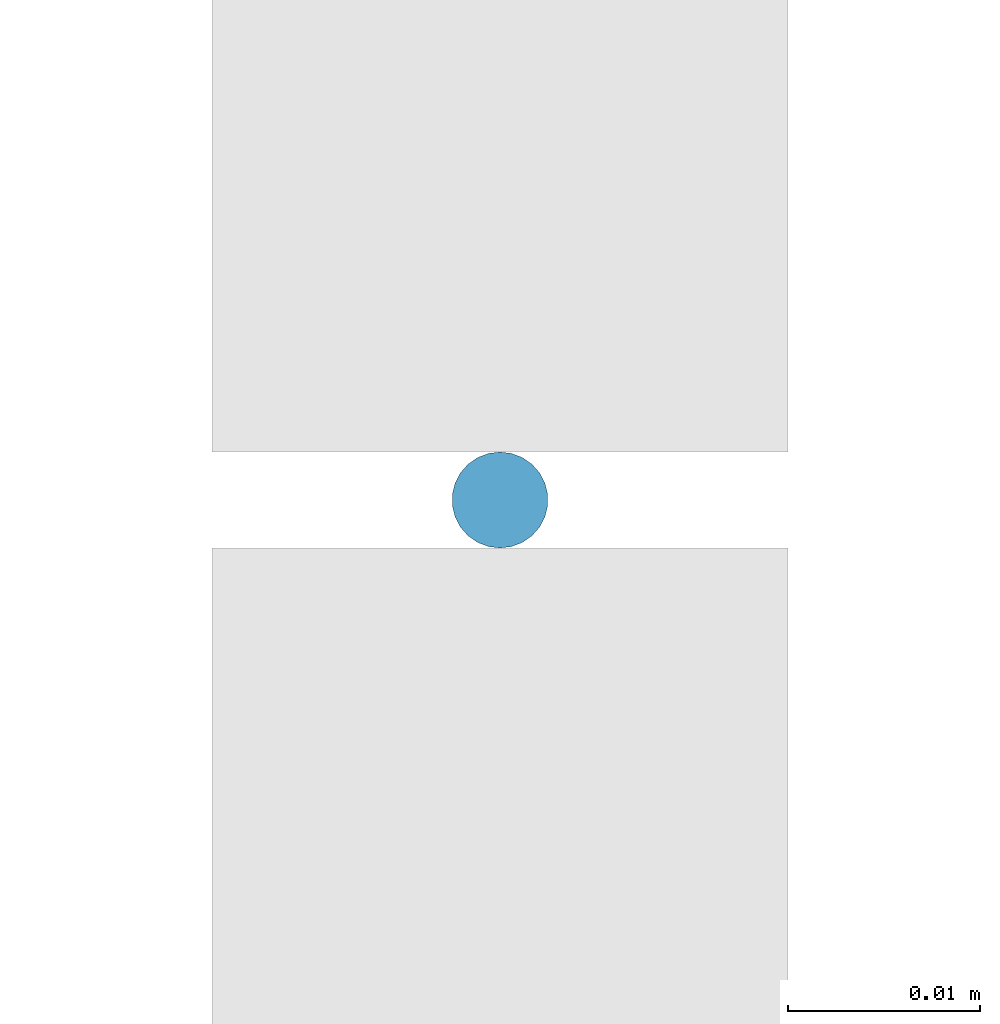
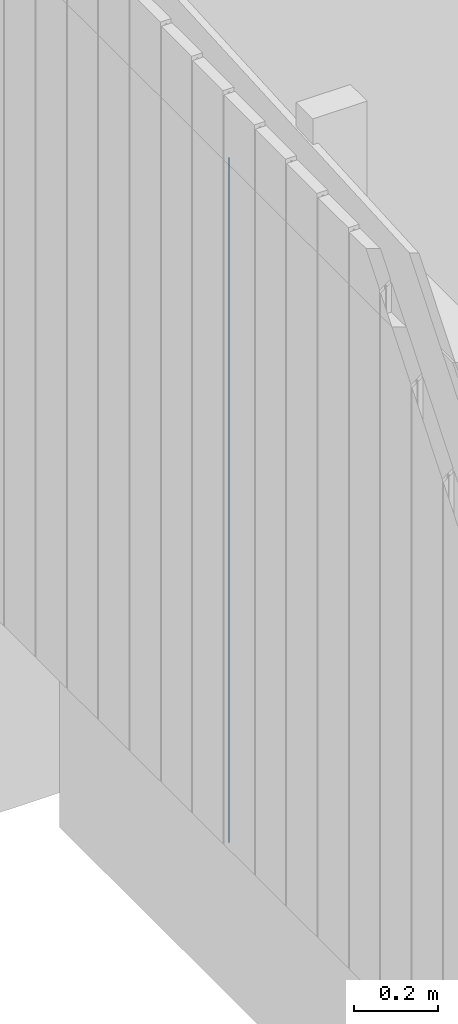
# One storey, part 41 of 81: 1 member, 1 element without a shape of its own.
"""IFC2X3 building model written with IfcOpenShell, lengths in metres."""

import ifcopenshell
import ifcopenshell.guid

model = None  # the IFC model being written
_history = None  # IfcOwnerHistory: only IFC2X3 demands one
_inside = {}  # id of a spatial element -> (the spatial element, [elements in it])
_under = {}  # id of a project, library or spatial element -> (it, [spatial elements below it])
_declared = {}  # id of a project -> (the project, [libraries it declares])
_typed = {}  # id of a type object -> (the type object, [elements of that type])
_made_of = {}  # id of a material, layer set ... -> (it, [elements and type objects made of it])


def new_model(schema):
    """Start an empty IFC model of exactly this schema.

    Asked for "IFC4X3", IfcOpenShell would pick the latest addendum, in which some entities
    have other attributes; the version numbers below select the first issue.
    IFC2X3 requires an IfcOwnerHistory on every rooted entity: one is made here for all.
    """
    global model, _history
    if schema == "IFC4X3":
        model = ifcopenshell.file(schema_version=(4, 3, 0, 0))
    else:
        model = ifcopenshell.file(schema=schema)
    _inside.clear()
    _under.clear()
    _declared.clear()
    _typed.clear()
    _made_of.clear()
    _history = None
    if model.schema == "IFC2X3":
        org = make("IfcOrganization", Name="unknown")
        user = make(
            "IfcPersonAndOrganization",
            ThePerson=make("IfcPerson", FamilyName="unknown"),
            TheOrganization=org,
        )
        app = make(
            "IfcApplication",
            ApplicationDeveloper=org,
            Version="unknown",
            ApplicationFullName="unknown",
            ApplicationIdentifier="unknown",
        )
        _history = make(
            "IfcOwnerHistory",
            OwningUser=user,
            OwningApplication=app,
            ChangeAction="ADDED",
            CreationDate=0,
        )
    return model


def make(cls, **values):
    """One entity of the class cls with the attributes given. An attribute that is None is left unset."""
    return model.create_entity(
        cls, **{name: value for name, value in values.items() if value is not None}
    )


def entity(cls, *values):
    """Any entity or typed value of the class cls, its attributes in the order of the schema. None: left unset."""
    e = model.create_entity(cls)
    for i, value in enumerate(values):
        if value is not None:
            e[i] = value
    return e


def rooted(cls, **values):
    """An entity with a GlobalId (a new one), such as an element, a storey or a relation."""
    return make(cls, GlobalId=ifcopenshell.guid.new(), OwnerHistory=_history, **values)


def si_unit(unit_type, name, prefix=None):
    """IfcSIUnit, for example si_unit("LENGTHUNIT", "METRE", prefix="MILLI")."""
    return make("IfcSIUnit", UnitType=unit_type, Prefix=prefix, Name=name)


def converted_unit(unit_type, name, factor, base, dimensions=None, offset=None):
    """IfcConversionBasedUnit, such as the inch: factor (a typed value) times the base unit."""
    return make(
        "IfcConversionBasedUnit"
        if offset is None
        else "IfcConversionBasedUnitWithOffset",
        ConversionOffset=offset,
        Dimensions=None
        if dimensions is None
        else entity("IfcDimensionalExponents", *dimensions),
        UnitType=unit_type,
        Name=name,
        ConversionFactor=make(
            "IfcMeasureWithUnit", ValueComponent=factor, UnitComponent=base
        ),
    )


def derived_unit(unit_type, elements):
    """IfcDerivedUnit: a product of units, each with its exponent."""
    return make(
        "IfcDerivedUnit",
        Elements=[
            make("IfcDerivedUnitElement", Unit=unit, Exponent=power)
            for unit, power in elements
        ],
        UnitType=unit_type,
    )


def assignment(units):
    """IfcUnitAssignment: the units of a project."""
    return None if units is None else make("IfcUnitAssignment", Units=units)


def point(xyz):
    """IfcCartesianPoint."""
    return None if xyz is None else make("IfcCartesianPoint", Coordinates=xyz)


def direction(xyz):
    """IfcDirection."""
    return None if xyz is None else make("IfcDirection", DirectionRatios=xyz)


def frame(location, z_axis=None, x_axis=None):
    """IfcAxis2Placement3D, a coordinate frame: its origin and axes. An axis left out is left unset."""
    return make(
        "IfcAxis2Placement3D",
        Location=point(location),
        Axis=direction(z_axis),
        RefDirection=direction(x_axis),
    )


def frame_2d(location, x_axis=None):
    """IfcAxis2Placement2D, a coordinate frame in the plane: its origin and x axis."""
    return make(
        "IfcAxis2Placement2D", Location=point(location), RefDirection=direction(x_axis)
    )


def origin():
    """The frame at (0, 0, 0) with its axes left unset."""
    return frame((0.0, 0.0, 0.0))


def place(relative_to, where):
    """IfcLocalPlacement: puts the frame where relative to a parent placement (None: the world)."""
    return make(
        "IfcLocalPlacement", PlacementRelTo=relative_to, RelativePlacement=where
    )


def context(
    kind, dimensions, precision=None, world=None, true_north=None, identifier=None
):
    """IfcGeometricRepresentationContext, for example the 3D "Model" context."""
    return make(
        "IfcGeometricRepresentationContext",
        ContextIdentifier=identifier,
        ContextType=kind,
        CoordinateSpaceDimension=dimensions,
        Precision=precision,
        WorldCoordinateSystem=world,
        TrueNorth=true_north,
    )


def subcontext(parent, identifier, kind, view, scale=None):
    """IfcGeometricRepresentationSubContext, for example "Body" below "Model"."""
    return make(
        "IfcGeometricRepresentationSubContext",
        ContextIdentifier=identifier,
        ContextType=kind,
        ParentContext=parent,
        TargetScale=scale,
        TargetView=view,
    )


def project(units=None, contexts=None):
    """IfcProject with its units and contexts."""
    return rooted(
        "IfcProject",
        Name="project",
        RepresentationContexts=contexts,
        UnitsInContext=assignment(units),
    )


def spatial(cls, under=None, at=None, **own):
    """A site, building, storey or space (cls), placed at a placement, below another one or the project."""
    s = rooted(cls, ObjectPlacement=at, **own)
    if under is not None:
        _under.setdefault(under.id(), (under, []))[1].append(s)
    return s


def profile(cls, at=None, kind="AREA", **sizes):
    """A parametric profile (cls). Its sizes go by their IFC names, for example OverallWidth=200.0."""
    return make(cls, ProfileType=kind, Position=at, **sizes)


def circle(**sizes):
    """IfcCircleProfileDef."""
    return profile("IfcCircleProfileDef", **sizes)


def extrude(swept, where, along, depth):
    """IfcExtrudedAreaSolid: the profile swept, set in the frame where, extruded along a direction by depth."""
    return make(
        "IfcExtrudedAreaSolid",
        SweptArea=swept,
        Position=where,
        ExtrudedDirection=direction(along),
        Depth=depth,
    )


def shape(context_of_items, identifier, shape_type, items):
    """IfcShapeRepresentation: the items that make up one representation, for example the "Body"."""
    return make(
        "IfcShapeRepresentation",
        ContextOfItems=context_of_items,
        RepresentationIdentifier=identifier,
        RepresentationType=shape_type,
        Items=items,
    )


def source(mapping_origin, context_of_items, identifier, shape_type, items):
    """IfcRepresentationMap: a shape defined once, which mapped items show again and again."""
    return make(
        "IfcRepresentationMap",
        MappingOrigin=mapping_origin,
        MappedRepresentation=shape(context_of_items, identifier, shape_type, items),
    )


def transform(
    local_origin,
    x_axis=None,
    y_axis=None,
    z_axis=None,
    scale=None,
    scale2=None,
    scale3=None,
    uniform=True,
):
    """IfcCartesianTransformationOperator3D, or its non-uniform kind. x_axis, y_axis, z_axis: its Axis1, 2, 3."""
    if uniform:
        return make(
            "IfcCartesianTransformationOperator3D",
            Axis1=direction(x_axis),
            Axis2=direction(y_axis),
            LocalOrigin=point(local_origin),
            Scale=scale,
            Axis3=direction(z_axis),
        )
    return make(
        "IfcCartesianTransformationOperator3DnonUniform",
        Axis1=direction(x_axis),
        Axis2=direction(y_axis),
        LocalOrigin=point(local_origin),
        Scale=scale,
        Axis3=direction(z_axis),
        Scale2=scale2,
        Scale3=scale3,
    )


def mapped(mapping_source, mapping_target):
    """IfcMappedItem: shows the shape of a source again, moved by a transform."""
    return make(
        "IfcMappedItem", MappingSource=mapping_source, MappingTarget=mapping_target
    )


def material(Name=None, Category=None):
    """IfcMaterial."""
    return make("IfcMaterial", Name=Name, Category=Category)


def made_of(thing, what):
    """Note that an element or type object is made of a material, layer set ...; save() writes the relation."""
    if what is not None:
        _made_of.setdefault(what.id(), (what, []))[1].append(thing)
    return thing


def type_object(cls, material=None, **own):
    """A type object (cls), such as IfcWallType, which elements share."""
    return made_of(rooted(cls, **own), material)


def type_shapes(of_type, sources):
    """Give a type object the sources (RepresentationMaps) that its elements show as mapped items."""
    of_type.RepresentationMaps = sources


def element(
    cls,
    number,
    at=None,
    inside=None,
    cuts=None,
    type_object=None,
    material=None,
    context=None,
    identifier="Body",
    shape_type=None,
    held_by="IfcProductDefinitionShape",
    body=None,
    shapes=None,
    **own,
):
    """One element of the class cls, such as IfcWall. Its Tag is "e" and its number.

    at: its placement. inside: the storey or other place that contains it. cuts: it is an
    opening in that element (IfcRelVoidsElement). A single representation is given by context,
    identifier, shape_type and body (its items); several are given by shapes. held_by: the class
    of the entity that holds the representations. save() writes the other relations.
    """
    e = rooted(cls, Tag="e%d" % number, ObjectPlacement=at, **own)
    if body is not None:
        shapes = [shape(context, identifier, shape_type, body)]
    if shapes is not None:
        e.Representation = make(held_by, Representations=shapes)
    if inside is not None:
        _inside.setdefault(inside.id(), (inside, []))[1].append(e)
    if cuts is not None:
        rooted(
            "IfcRelVoidsElement", RelatingBuildingElement=cuts, RelatedOpeningElement=e
        )
    if type_object is not None:
        _typed.setdefault(type_object.id(), (type_object, []))[1].append(e)
    return made_of(e, material)


def aggregate(whole, parts):
    """IfcRelAggregates: a whole, such as a stair, and the parts it consists of."""
    return rooted("IfcRelAggregates", RelatingObject=whole, RelatedObjects=parts)


def save(model, path):
    """Write the relations noted so far, then the file.

    IfcRelAggregates (storeys below a building ...), IfcRelContainedInSpatialStructure (elements
    in a storey), IfcRelDefinesByType, IfcRelAssociatesMaterial and IfcRelDeclares: one each for
    every whole, place, type object, material and project.
    """
    for whole, parts in _under.values():
        aggregate(whole, parts)
    for where, things in _inside.values():
        rooted(
            "IfcRelContainedInSpatialStructure",
            RelatedElements=things,
            RelatingStructure=where,
        )
    for kind, things in _typed.values():
        rooted("IfcRelDefinesByType", RelatedObjects=things, RelatingType=kind)
    for what, things in _made_of.values():
        rooted("IfcRelAssociatesMaterial", RelatedObjects=things, RelatingMaterial=what)
    for by, libraries in _declared.values():
        rooted("IfcRelDeclares", RelatingContext=by, RelatedDefinitions=libraries)
    model.write(path)


model = new_model("IFC2X3")

# Units and contexts
model_context = context("Model", 3, precision=1e-05, world=origin(), true_north=direction((6.12303176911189e-17, 1.0)))
body_context = subcontext(model_context, "Body", "Model", "MODEL_VIEW")
ifc_project = project(units=[si_unit("LENGTHUNIT", "METRE"), si_unit("AREAUNIT", "SQUARE_METRE"), si_unit("VOLUMEUNIT", "CUBIC_METRE"), converted_unit("PLANEANGLEUNIT", "DEGREE", entity("IfcRatioMeasure", 0.0174532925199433), si_unit("PLANEANGLEUNIT", "RADIAN"), dimensions=[0, 0, 0, 0, 0, 0, 0]), si_unit("MASSUNIT", "GRAM", prefix="KILO"), derived_unit("MASSDENSITYUNIT", [(si_unit("MASSUNIT", "GRAM", prefix="KILO"), 1), (si_unit("LENGTHUNIT", "METRE"), -3)]), derived_unit("MOMENTOFINERTIAUNIT", [(si_unit("LENGTHUNIT", "METRE"), 4)]), si_unit("TIMEUNIT", "SECOND"), si_unit("FREQUENCYUNIT", "HERTZ"), si_unit("THERMODYNAMICTEMPERATUREUNIT", "DEGREE_CELSIUS"), derived_unit("THERMALTRANSMITTANCEUNIT", [(si_unit("MASSUNIT", "GRAM", prefix="KILO"), 1), (si_unit("THERMODYNAMICTEMPERATUREUNIT", "KELVIN"), -1), (si_unit("TIMEUNIT", "SECOND"), -3)]), derived_unit("VOLUMETRICFLOWRATEUNIT", [(si_unit("LENGTHUNIT", "METRE"), 3), (si_unit("TIMEUNIT", "SECOND"), -1)]), si_unit("ELECTRICCURRENTUNIT", "AMPERE"), si_unit("ELECTRICVOLTAGEUNIT", "VOLT"), si_unit("POWERUNIT", "WATT"), si_unit("FORCEUNIT", "NEWTON", prefix="KILO"), si_unit("ILLUMINANCEUNIT", "LUX"), si_unit("LUMINOUSFLUXUNIT", "LUMEN"), si_unit("LUMINOUSINTENSITYUNIT", "CANDELA"), derived_unit("USERDEFINED", [(si_unit("MASSUNIT", "GRAM", prefix="KILO"), -1), (si_unit("LENGTHUNIT", "METRE"), -2), (si_unit("TIMEUNIT", "SECOND"), 3), (si_unit("LUMINOUSFLUXUNIT", "LUMEN"), 1)]), derived_unit("LINEARVELOCITYUNIT", [(si_unit("LENGTHUNIT", "METRE"), 1), (si_unit("TIMEUNIT", "SECOND"), -1)]), si_unit("PRESSUREUNIT", "PASCAL"), derived_unit("USERDEFINED", [(si_unit("LENGTHUNIT", "METRE"), -2), (si_unit("MASSUNIT", "GRAM", prefix="KILO"), 1), (si_unit("TIMEUNIT", "SECOND"), -2)]), derived_unit("LINEARFORCEUNIT", [(si_unit("MASSUNIT", "GRAM", prefix="KILO"), 1), (si_unit("LENGTHUNIT", "METRE"), 1), (si_unit("TIMEUNIT", "SECOND"), -2), (si_unit("LENGTHUNIT", "METRE"), -1)]), derived_unit("PLANARFORCEUNIT", [(si_unit("MASSUNIT", "GRAM", prefix="KILO"), 1), (si_unit("LENGTHUNIT", "METRE"), 1), (si_unit("TIMEUNIT", "SECOND"), -2), (si_unit("LENGTHUNIT", "METRE"), -2)])], contexts=[model_context])

# Site, building, storey
site_placement = place(None, origin())
site = spatial("IfcSite", under=ifc_project, at=site_placement, Name="Surface", CompositionType="ELEMENT")
building_placement = place(site_placement, origin())
building = spatial("IfcBuilding", under=site, at=building_placement, CompositionType="ELEMENT")
storey_placement = place(building_placement, origin())
storey = spatial("IfcBuildingStorey", under=building, at=storey_placement, Name="01 RDC", CompositionType="ELEMENT", Elevation=-1.94916083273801e-14)

# Curtain wall, member
curtain_wall_type = type_object("IfcCurtainWallType", Name="Mur-rideau:1m x 2m", PredefinedType="NOTDEFINED")
curtain_wall_placement = place(storey_placement, origin())
curtain_wall = element("IfcCurtainWall", 1, at=curtain_wall_placement, inside=storey, type_object=curtain_wall_type, Name="Mur-rideau:1m x 2m", ObjectType="Mur-rideau:1m x 2m")
ifc_material = material(Name="Aluminium - Vert")
member_type = type_object("IfcMemberType", Name="Meneau circulaire:R-30 mm", PredefinedType="MULLION", material=ifc_material)
shared_shape = source(origin(), body_context, "Body", "SweptSolid", [
    extrude(circle(Radius=0.0025, at=frame_2d((-8.37005581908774e-27, 3.23452349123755e-15), x_axis=(1.0, 0.0))), frame((0.0, 0.0, -2.0), z_axis=(0.0, 0.0, 1.0), x_axis=(-1.0, 0.0, 0.0)), (0.0, 0.0, 1.0), 2.0),
])
type_shapes(member_type, [shared_shape])
member_placement = place(storey_placement, frame((5.45983615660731, -4.80721095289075, 0.3), z_axis=(0.0, 0.0, -1.0), x_axis=(0.0, 1.0, 0.0)))
member = element("IfcMember", 2, at=member_placement, type_object=member_type, material=ifc_material, Name="Meneau circulaire:R-30 mm", ObjectType="Meneau circulaire:R-30 mm", context=body_context, shape_type="MappedRepresentation", body=[
    mapped(shared_shape, transform((0.0, 0.0, 0.0), scale=1.0)),
])
aggregate(curtain_wall, [member])

save(model, "model.ifc")
